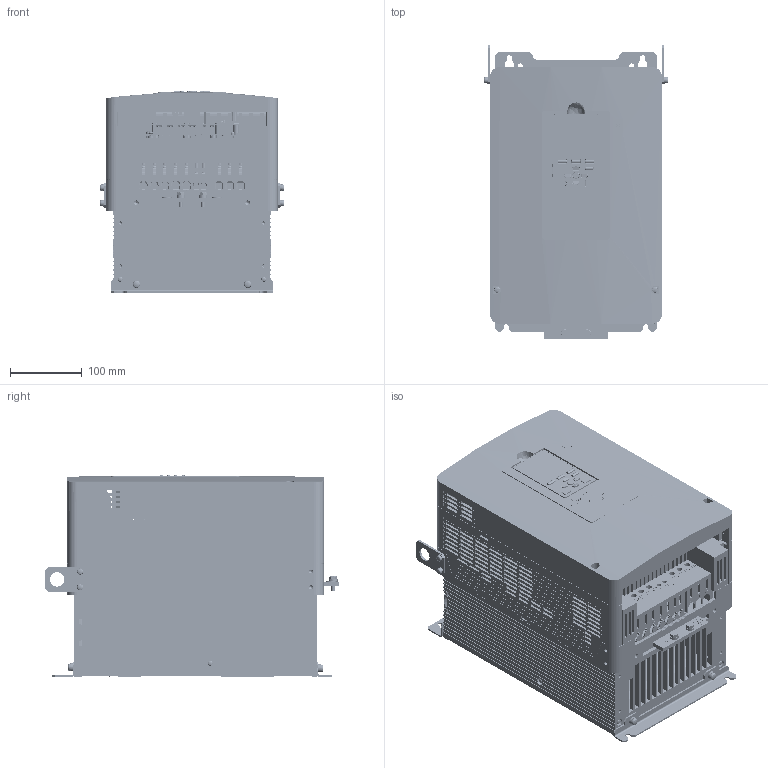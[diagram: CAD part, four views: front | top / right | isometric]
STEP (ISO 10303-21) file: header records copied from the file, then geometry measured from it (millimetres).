
FILE_DESCRIPTION((''),'2;1');
FILE_NAME('71617-GA70_C_4075_AB_B_Q_A_ASM','2017-04-07T',('toshi531'),('YASKAWA ELECTRIC CORCORATION'),'PRO/ENGINEER BY PARAMETRIC TECHNOLOGY CORPORATION, 2015110','PRO/ENGINEER BY PARAMETRIC TECHNOLOGY CORPORATION, 2015110','');
FILE_SCHEMA(('AUTOMOTIVE_DESIGN { 1 0 10303 214 1 1 1 1 }'));
Products named in the file (19): LAY-GA70_4075; GA70_4075_BODY; GA70_4075_MTG_PLATE_BOTTOM; GEM_OPEN_SCREW_M6X12; GA70_4075_MTG_PLATE_TOP; GA70_4075_FAN; GA70_4075_FAN_COVER; GEM_OPEN_SCREW_M4X25; GA70_ALL_TB_TYPEB; GEM_OPEN_SCREW_M3P5X6; GEM_OPEN_SCREW_M3X15; GA70_ALL_LED; GA70_4075_IP20_COVER; GA70_4075_FP; GA70_ALL_CONNECTOR; GA70_ALL_USB_COVER; GA70_ALL_LCD_OPERATOR; GA70_4075_SCREW_GND; 71617-GA70_C_4075_AB_B_Q_A_ASM
Assembly tree (24 placements, depth 2):
  71617-GA70_C_4075_AB_B_Q_A_ASM
    LAY-GA70_4075
    GA70_4075_BODY
    GA70_4075_MTG_PLATE_BOTTOM
    GEM_OPEN_SCREW_M6X12  x4
    GA70_4075_MTG_PLATE_TOP
    GA70_4075_FAN  x2
    GA70_4075_FAN_COVER
    GEM_OPEN_SCREW_M4X25  x2
    GA70_ALL_TB_TYPEB
    GEM_OPEN_SCREW_M3P5X6
    GEM_OPEN_SCREW_M3X15
    GA70_ALL_LED
    GA70_4075_IP20_COVER
    GA70_4075_FP
    GA70_ALL_CONNECTOR
    GA70_ALL_USB_COVER
    GA70_ALL_LCD_OPERATOR
    GA70_4075_SCREW_GND  x2
Bounding box: 257.6 x 410 x 281.5 mm (x, y, z)
Volume: 10456683.5 mm3; surface area: 1559324.3 mm2
Topology: 24 solids, 54 shells, 13194 faces, 35958 edges, 23357 vertices
Faces by surface type: plane 10113, cylinder 2207, cone 325, torus 275, bspline 113, extrusion 87, sphere 74
Entity records: 476098 total; most frequent: CARTESIAN_POINT 88434, ORIENTED_EDGE 68164, DIRECTION 61702, EDGE_CURVE 34082, VECTOR 28000, LINE 27937, VERTEX_POINT 22223, AXIS2_PLACEMENT_3D 16851
